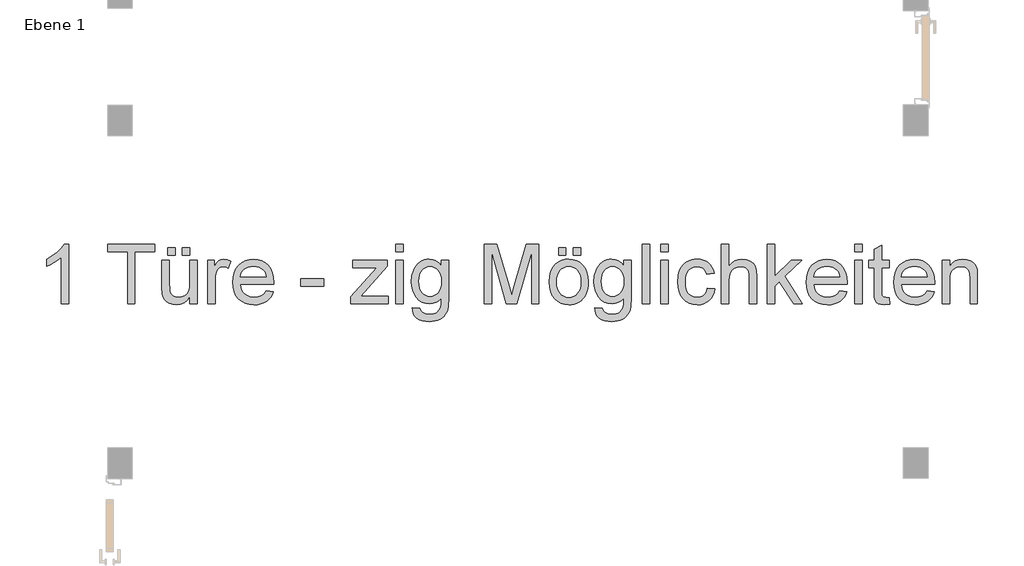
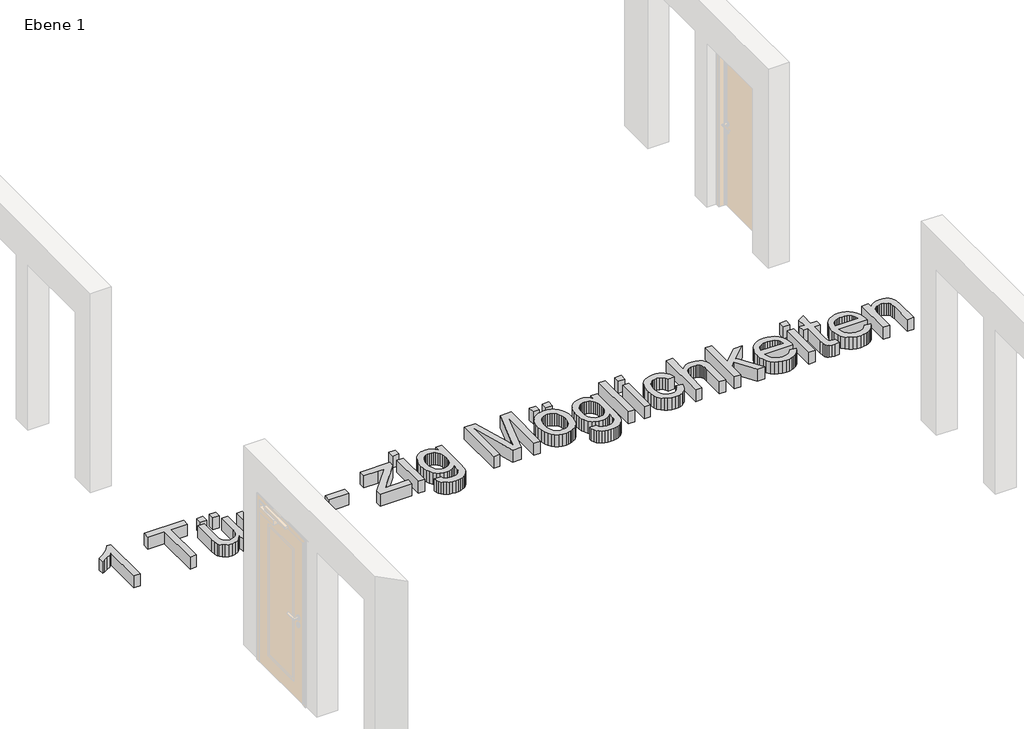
# One storey, part 2 of 2: 1 proxy.
"""IFC4 building model written with IfcOpenShell, lengths in millimetres."""

import ifcopenshell
import ifcopenshell.guid

model = None  # the IFC model being written
_history = None  # IfcOwnerHistory: only IFC2X3 demands one
_inside = {}  # id of a spatial element -> (the spatial element, [elements in it])
_under = {}  # id of a project, library or spatial element -> (it, [spatial elements below it])
_declared = {}  # id of a project -> (the project, [libraries it declares])
_typed = {}  # id of a type object -> (the type object, [elements of that type])
_made_of = {}  # id of a material, layer set ... -> (it, [elements and type objects made of it])


def new_model(schema):
    """Start an empty IFC model of exactly this schema.

    Asked for "IFC4X3", IfcOpenShell would pick the latest addendum, in which some entities
    have other attributes; the version numbers below select the first issue.
    IFC2X3 requires an IfcOwnerHistory on every rooted entity: one is made here for all.
    """
    global model, _history
    if schema == "IFC4X3":
        model = ifcopenshell.file(schema_version=(4, 3, 0, 0))
    else:
        model = ifcopenshell.file(schema=schema)
    _inside.clear()
    _under.clear()
    _declared.clear()
    _typed.clear()
    _made_of.clear()
    _history = None
    if model.schema == "IFC2X3":
        org = make("IfcOrganization", Name="unknown")
        user = make(
            "IfcPersonAndOrganization",
            ThePerson=make("IfcPerson", FamilyName="unknown"),
            TheOrganization=org,
        )
        app = make(
            "IfcApplication",
            ApplicationDeveloper=org,
            Version="unknown",
            ApplicationFullName="unknown",
            ApplicationIdentifier="unknown",
        )
        _history = make(
            "IfcOwnerHistory",
            OwningUser=user,
            OwningApplication=app,
            ChangeAction="ADDED",
            CreationDate=0,
        )
    return model


def make(cls, **values):
    """One entity of the class cls with the attributes given. An attribute that is None is left unset."""
    return model.create_entity(
        cls, **{name: value for name, value in values.items() if value is not None}
    )


def rooted(cls, **values):
    """An entity with a GlobalId (a new one), such as an element, a storey or a relation."""
    return make(cls, GlobalId=ifcopenshell.guid.new(), OwnerHistory=_history, **values)


def si_unit(unit_type, name, prefix=None):
    """IfcSIUnit, for example si_unit("LENGTHUNIT", "METRE", prefix="MILLI")."""
    return make("IfcSIUnit", UnitType=unit_type, Prefix=prefix, Name=name)


def assignment(units):
    """IfcUnitAssignment: the units of a project."""
    return None if units is None else make("IfcUnitAssignment", Units=units)


def point(xyz):
    """IfcCartesianPoint."""
    return None if xyz is None else make("IfcCartesianPoint", Coordinates=xyz)


def direction(xyz):
    """IfcDirection."""
    return None if xyz is None else make("IfcDirection", DirectionRatios=xyz)


def frame(location, z_axis=None, x_axis=None):
    """IfcAxis2Placement3D, a coordinate frame: its origin and axes. An axis left out is left unset."""
    return make(
        "IfcAxis2Placement3D",
        Location=point(location),
        Axis=direction(z_axis),
        RefDirection=direction(x_axis),
    )


def origin():
    """The frame at (0, 0, 0) with its axes left unset."""
    return frame((0.0, 0.0, 0.0))


def origin_with_axes():
    """The frame at (0, 0, 0) with the z axis (0, 0, 1) and the x axis (1, 0, 0) written out."""
    return frame((0.0, 0.0, 0.0), z_axis=(0.0, 0.0, 1.0), x_axis=(1.0, 0.0, 0.0))


def place(relative_to, where):
    """IfcLocalPlacement: puts the frame where relative to a parent placement (None: the world)."""
    return make(
        "IfcLocalPlacement", PlacementRelTo=relative_to, RelativePlacement=where
    )


def context(
    kind, dimensions, precision=None, world=None, true_north=None, identifier=None
):
    """IfcGeometricRepresentationContext, for example the 3D "Model" context."""
    return make(
        "IfcGeometricRepresentationContext",
        ContextIdentifier=identifier,
        ContextType=kind,
        CoordinateSpaceDimension=dimensions,
        Precision=precision,
        WorldCoordinateSystem=world,
        TrueNorth=true_north,
    )


def project(units=None, contexts=None):
    """IfcProject with its units and contexts."""
    return rooted(
        "IfcProject",
        Name="project",
        RepresentationContexts=contexts,
        UnitsInContext=assignment(units),
    )


def spatial(cls, under=None, at=None, **own):
    """A site, building, storey or space (cls), placed at a placement, below another one or the project."""
    s = rooted(cls, ObjectPlacement=at, **own)
    if under is not None:
        _under.setdefault(under.id(), (under, []))[1].append(s)
    return s


def polyline(points):
    """IfcPolyline through the points."""
    return make("IfcPolyline", Points=[point(p) for p in points])


def outline(outer, holes=None, kind="AREA"):
    """IfcArbitraryClosedProfileDef: a profile drawn as a closed curve; with holes, ...WithVoids."""
    if holes is None:
        return make("IfcArbitraryClosedProfileDef", ProfileType=kind, OuterCurve=outer)
    return make(
        "IfcArbitraryProfileDefWithVoids",
        ProfileType=kind,
        OuterCurve=outer,
        InnerCurves=holes,
    )


def extrude(swept, where, along, depth):
    """IfcExtrudedAreaSolid: the profile swept, set in the frame where, extruded along a direction by depth."""
    return make(
        "IfcExtrudedAreaSolid",
        SweptArea=swept,
        Position=where,
        ExtrudedDirection=direction(along),
        Depth=depth,
    )


def shape(context_of_items, identifier, shape_type, items):
    """IfcShapeRepresentation: the items that make up one representation, for example the "Body"."""
    return make(
        "IfcShapeRepresentation",
        ContextOfItems=context_of_items,
        RepresentationIdentifier=identifier,
        RepresentationType=shape_type,
        Items=items,
    )


def made_of(thing, what):
    """Note that an element or type object is made of a material, layer set ...; save() writes the relation."""
    if what is not None:
        _made_of.setdefault(what.id(), (what, []))[1].append(thing)
    return thing


def element(
    cls,
    number,
    at=None,
    inside=None,
    cuts=None,
    type_object=None,
    material=None,
    context=None,
    identifier="Body",
    shape_type=None,
    held_by="IfcProductDefinitionShape",
    body=None,
    shapes=None,
    **own,
):
    """One element of the class cls, such as IfcWall. Its Tag is "e" and its number.

    at: its placement. inside: the storey or other place that contains it. cuts: it is an
    opening in that element (IfcRelVoidsElement). A single representation is given by context,
    identifier, shape_type and body (its items); several are given by shapes. held_by: the class
    of the entity that holds the representations. save() writes the other relations.
    """
    e = rooted(cls, Tag="e%d" % number, ObjectPlacement=at, **own)
    if body is not None:
        shapes = [shape(context, identifier, shape_type, body)]
    if shapes is not None:
        e.Representation = make(held_by, Representations=shapes)
    if inside is not None:
        _inside.setdefault(inside.id(), (inside, []))[1].append(e)
    if cuts is not None:
        rooted(
            "IfcRelVoidsElement", RelatingBuildingElement=cuts, RelatedOpeningElement=e
        )
    if type_object is not None:
        _typed.setdefault(type_object.id(), (type_object, []))[1].append(e)
    return made_of(e, material)


def aggregate(whole, parts):
    """IfcRelAggregates: a whole, such as a stair, and the parts it consists of."""
    return rooted("IfcRelAggregates", RelatingObject=whole, RelatedObjects=parts)


def save(model, path):
    """Write the relations noted so far, then the file.

    IfcRelAggregates (storeys below a building ...), IfcRelContainedInSpatialStructure (elements
    in a storey), IfcRelDefinesByType, IfcRelAssociatesMaterial and IfcRelDeclares: one each for
    every whole, place, type object, material and project.
    """
    for whole, parts in _under.values():
        aggregate(whole, parts)
    for where, things in _inside.values():
        rooted(
            "IfcRelContainedInSpatialStructure",
            RelatedElements=things,
            RelatingStructure=where,
        )
    for kind, things in _typed.values():
        rooted("IfcRelDefinesByType", RelatedObjects=things, RelatingType=kind)
    for what, things in _made_of.values():
        rooted("IfcRelAssociatesMaterial", RelatedObjects=things, RelatingMaterial=what)
    for by, libraries in _declared.values():
        rooted("IfcRelDeclares", RelatingContext=by, RelatedDefinitions=libraries)
    model.write(path)


model = new_model("IFC4")

# Units and contexts
model_context = context("Model", 3, world=origin())
ifc_project = project(units=[si_unit("LENGTHUNIT", "METRE", prefix="MILLI")], contexts=[model_context])

# Site, building, storey
site = spatial("IfcSite", under=ifc_project)
building = spatial("IfcBuilding", under=site)
storey = spatial("IfcBuildingStorey", under=building, Name="Ebene 1", Elevation=0.0)

# Proxy
placement = place(None, origin())
element("IfcBuildingElementProxy", 1, Name="Modelltext 1", ObjectType="Modelltext 1", at=placement, inside=storey, context=model_context, shape_type="SweptSolid", body=[
    extrude(outline(polyline([(-4901.5799407, -2031.7303365), (-4976.9221733, -2031.7303365), (-4976.9221733, -1562.0186051), (-5008.3760839, -1587.4576451), (-5048.2912804, -1612.8598968), (-5090.1930397, -1635.0615752), (-5127.6066386, -1650.8988951), (-5127.6066386, -1579.6769409), (-5068.4328196, -1547.4872663), (-5017.1684636, -1509.1907506), (-4976.7566264, -1468.4662137), (-4950.1403641, -1428.9924756), (-4901.5799407, -1428.9924756), (-4901.5799407, -2031.7303365)])), origin_with_axes(), (0.0, 0.0, 1.0), 150.0),
    extrude(outline(polyline([(-4308.2598589, -2031.7303365), (-4308.2598589, -1504.3347083), (-4506.0332195, -1504.3347083), (-4506.0332195, -1428.9924756), (-4035.1442657, -1428.9924756), (-4035.1442657, -1504.3347083), (-4232.9176263, -1504.3347083), (-4232.9176263, -2031.7303365), (-4308.2598589, -2031.7303365)])), origin_with_axes(), (0.0, 0.0, 1.0), 150.0),
    extrude(outline(polyline([(-3677.2686608, -2031.7303365), (-3677.2686608, -1955.6523399), (-3704.5287166, -1993.0567418), (-3736.2769328, -2019.7741717), (-3772.5133093, -2035.8046296), (-3813.2378462, -2041.1481156), (-3849.9340752, -2037.3957193), (-3884.0919185, -2026.1385302), (-3912.7499259, -2009.2159584), (-3932.9466474, -1988.4674139), (-3946.5398871, -1963.2674972), (-3955.3874491, -1932.990809), (-3959.8020331, -1862.9460772), (-3959.8020331, -1589.0947199), (-3884.4598005, -1589.0947199), (-3884.4598005, -1827.4822528), (-3883.3193663, -1875.1597594), (-3879.8980637, -1904.2960134), (-3868.9167862, -1929.9189944), (-3850.0996221, -1949.398346), (-3824.6973703, -1961.7039988), (-3793.9608296, -1965.805883), (-3761.4584554, -1961.6120283), (-3731.0530085, -1949.030464), (-3705.9818505, -1929.2200186), (-3689.482343, -1903.3395202), (-3680.3220813, -1867.89409), (-3677.2686608, -1819.3888489), (-3677.2686608, -1589.0947199), (-3601.9264282, -1589.0947199), (-3601.9264282, -2031.7303365), (-3677.2686608, -2031.7303365)])), origin_with_axes(), (0.0, 0.0, 1.0), 150.0),
    extrude(outline(polyline([(-3903.2953586, -1542.0058246), (-3903.2953586, -1466.663592), (-3827.953126, -1466.663592), (-3827.953126, -1542.0058246), (-3903.2953586, -1542.0058246)])), origin_with_axes(), (0.0, 0.0, 1.0), 150.0),
    extrude(outline(polyline([(-3752.6108934, -1542.0058246), (-3752.6108934, -1466.663592), (-3677.2686608, -1466.663592), (-3677.2686608, -1542.0058246), (-3752.6108934, -1542.0058246)])), origin_with_axes(), (0.0, 0.0, 1.0), 150.0),
    extrude(outline(polyline([(-3498.3308583, -2031.7303365), (-3498.3308583, -1589.0947199), (-3432.4064048, -1589.0947199), (-3432.4064048, -1654.5777151), (-3408.0526167, -1616.6122932), (-3385.611815, -1594.2450679), (-3363.0974369, -1583.3189726), (-3338.5229196, -1579.6769409), (-3300.9989561, -1585.4894764), (-3262.8863814, -1602.927083), (-3288.0495099, -1670.4702173), (-3314.5370135, -1658.8819344), (-3341.0245172, -1655.0191735), (-3363.5205012, -1658.7347816), (-3383.6252522, -1669.8816061), (-3399.8672423, -1687.6135183), (-3410.7749435, -1711.0843895), (-3419.9352052, -1753.1700898), (-3422.9886257, -1799.0817628), (-3422.9886257, -2031.7303365), (-3498.3308583, -2031.7303365)])), origin_with_axes(), (0.0, 0.0, 1.0), 150.0),
    extrude(outline(polyline([(-2905.8936933, -1899.8814295), (-2832.0229887, -1909.2992086), (-2843.3491556, -1938.886118), (-2858.639251, -1964.9597544), (-2877.8932749, -1987.5201178), (-2901.1112274, -2006.5672081), (-2928.053985, -2021.6963551), (-2958.4824245, -2032.5028887), (-2992.3965459, -2038.9868089), (-3029.7963493, -2041.1481156), (-3076.5449538, -2037.4187119), (-3118.1983927, -2026.2305007), (-3154.756666, -2007.5834821), (-3186.2197736, -1981.477656), (-3211.5208578, -1948.6395894), (-3229.5930608, -1909.7958492), (-3240.4363827, -1864.9464355), (-3244.0508233, -1814.0913482), (-3240.3995945, -1761.511814), (-3229.445908, -1715.1678797), (-3211.189764, -1675.0595452), (-3185.6311624, -1641.1868105), (-3154.2508282, -1614.2762425), (-3118.5294865, -1595.0544083), (-3078.4671372, -1583.5213077), (-3034.0637804, -1579.6769409), (-2991.0905648, -1583.5121107), (-2952.2284306, -1595.0176201), (-2917.4773776, -1614.1934691), (-2886.8374059, -1641.0396577), (-2861.8260288, -1674.838816), (-2843.9607594, -1714.8735741), (-2833.2415978, -1761.143932), (-2829.6685439, -1813.6498898), (-2830.1100023, -1833.9569759), (-3168.7085906, -1833.9569759), (-3164.3445905, -1864.022132), (-3155.6671739, -1890.3532858), (-3142.676341, -1912.9504374), (-3125.3720916, -1931.8135867), (-3104.7109191, -1946.6852163), (-3081.6493165, -1957.3078089), (-3056.1872839, -1963.6813645), (-3028.3248213, -1965.805883), (-2988.2256838, -1961.8695457), (-2954.4541167, -1950.0605336), (-2927.0101198, -1929.6430829), (-2905.8936933, -1899.8814295)]), holes=[polyline([(-3168.7085906, -1758.6147433), (-2905.0107765, -1758.6147433), (-2915.2011078, -1718.8099114), (-2923.9658963, -1703.1565326), (-2935.1771001, -1690.335845), (-2955.7233095, -1674.8848012), (-2979.1022103, -1663.8483414), (-3005.3138025, -1657.2264655), (-3034.358086, -1655.0191735), (-3060.8501882, -1656.7804085), (-3085.1441954, -1662.0641137), (-3107.2401078, -1670.870289), (-3127.1379252, -1683.1989343), (-3143.8351692, -1698.4798327), (-3156.3293615, -1716.142767), (-3164.620502, -1736.1877372), (-3168.7085906, -1758.6147433)])]), origin_with_axes(), (0.0, 0.0, 1.0), 150.0),
    extrude(outline(polyline([(-2556.5529507, -1852.7925341), (-2556.5529507, -1777.4503015), (-2321.1084738, -1777.4503015), (-2321.1084738, -1852.7925341), (-2556.5529507, -1852.7925341)])), origin_with_axes(), (0.0, 0.0, 1.0), 150.0),
    extrude(outline(polyline([(-2047.9928805, -2031.7303365), (-2047.9928805, -1960.8026879), (-1787.9738863, -1664.4369526), (-1864.9347997, -1664.4369526), (-2029.1573224, -1664.4369526), (-2029.1573224, -1589.0947199), (-1680.6994966, -1589.0947199), (-1680.6994966, -1653.1061871), (-1911.2879311, -1916.0682373), (-1946.6046027, -1956.3881039), (-1859.4901462, -1956.3881039), (-1671.2817175, -1956.3881039), (-1671.2817175, -2031.7303365), (-2047.9928805, -2031.7303365)])), origin_with_axes(), (0.0, 0.0, 1.0), 150.0),
    extrude(outline(polyline([(-1595.9394849, -1504.3347083), (-1595.9394849, -1428.9924756), (-1520.5972523, -1428.9924756), (-1520.5972523, -1504.3347083), (-1595.9394849, -1504.3347083)])), origin_with_axes(), (0.0, 0.0, 1.0), 150.0),
    extrude(outline(polyline([(-1595.9394849, -2031.7303365), (-1595.9394849, -1589.0947199), (-1520.5972523, -1589.0947199), (-1520.5972523, -2031.7303365), (-1595.9394849, -2031.7303365)])), origin_with_axes(), (0.0, 0.0, 1.0), 150.0),
    extrude(outline(polyline([(-1426.4194615, -2069.4014529), (-1351.0772289, -2078.8192319), (-1342.7630958, -2102.3636796), (-1326.6498644, -2118.5504874), (-1294.9752246, -2131.1320516), (-1253.5149238, -2135.3259064), (-1209.2955079, -2130.5802286), (-1191.4348371, -2124.6481315), (-1176.4068576, -2116.3431954), (-1153.5981739, -2093.5345117), (-1139.618658, -2063.0738825), (-1135.5351679, -2030.6634788), (-1134.4683101, -1975.2236621), (-1159.5394681, -1999.9453322), (-1187.5168938, -2017.6036679), (-1218.4005873, -2028.1986694), (-1252.1905486, -2031.7303365), (-1293.4990981, -2027.6192552), (-1329.8688319, -2015.2860114), (-1361.2997498, -1994.7306049), (-1387.791852, -1965.9530358), (-1408.8117095, -1931.4273106), (-1423.8258934, -1893.6274356), (-1432.8344038, -1852.5534108), (-1435.8372406, -1808.2052363), (-1430.4477693, -1747.3759484), (-1414.2793556, -1691.439491), (-1402.2955997, -1666.2165817), (-1387.9022166, -1644.0378959), (-1371.0992065, -1624.9034337), (-1351.8865693, -1608.8131949), (-1330.5724062, -1596.0660838), (-1307.4648183, -1586.9610044), (-1282.5638058, -1581.4979567), (-1255.8693685, -1579.6769409), (-1220.6354704, -1583.7972192), (-1188.657328, -1596.1580543), (-1159.9349412, -1616.759446), (-1134.4683101, -1645.6013944), (-1134.4683101, -1589.0947199), (-1059.1260775, -1589.0947199), (-1059.1260775, -1971.2505365), (-1064.2764254, -2059.4870331), (-1070.7143604, -2092.3067056), (-1079.7274692, -2117.5939942), (-1091.5318828, -2137.9884523), (-1106.3437316, -2156.1296332), (-1124.1630157, -2172.0175369), (-1144.9897352, -2185.6521633), (-1168.6123578, -2196.5966527), (-1194.8193514, -2204.4141451), (-1223.6107161, -2209.1046405), (-1254.9864517, -2210.668139), (-1291.8988114, -2208.4654456), (-1325.0863659, -2201.8573652), (-1354.5491152, -2190.843898), (-1380.2870593, -2175.4250439), (-1401.0769905, -2155.5824087), (-1415.6957013, -2131.2975985), (-1424.1431916, -2102.5706132), (-1426.4194615, -2069.4014529)]), holes=[polyline([(-1360.495008, -1803.0548883), (-1358.4854526, -1840.3075389), (-1352.4567864, -1872.1615211), (-1342.4090094, -1898.6168351), (-1328.3421216, -1919.6734808), (-1311.2402073, -1935.7361284), (-1292.0873509, -1947.2094482), (-1270.8835525, -1954.09344), (-1247.6288118, -1956.3881039), (-1224.6039975, -1954.1072356), (-1203.5013665, -1947.2646305), (-1184.320919, -1935.8602886), (-1167.0626549, -1919.89421), (-1152.8026291, -1899.0444979), (-1142.6168963, -1872.9892556), (-1136.5054567, -1841.7284831), (-1134.4683101, -1805.2621803), (-1136.5652375, -1770.3179893), (-1142.8560196, -1739.9447321), (-1153.3406565, -1714.1424086), (-1168.0191481, -1692.911019), (-1185.6498927, -1676.3333366), (-1204.9912886, -1664.4921349), (-1226.0433358, -1657.3874138), (-1248.8060342, -1655.0191735), (-1271.1870551, -1657.3506256), (-1291.8298336, -1664.3449821), (-1310.7343696, -1676.0022428), (-1327.9006632, -1692.3224078), (-1342.160689, -1713.2319007), (-1352.3464218, -1738.6571451), (-1358.4578614, -1768.598141), (-1360.495008, -1803.0548883)])]), origin_with_axes(), (0.0, 0.0, 1.0), 150.0),
    extrude(outline(polyline([(-701.2504726, -2031.7303365), (-701.2504726, -1428.9924756), (-571.6088575, -1428.9924756), (-448.2948127, -1853.8226037), (-423.4259898, -1942.5557409), (-396.4970278, -1846.4649638), (-275.2431222, -1428.9924756), (-145.6015071, -1428.9924756), (-145.6015071, -2031.7303365), (-220.9437397, -2031.7303365), (-220.9437397, -1504.3347083), (-372.3639689, -2031.7303365), (-474.4880108, -2031.7303365), (-625.90824, -1504.3347083), (-625.90824, -2031.7303365), (-701.2504726, -2031.7303365)])), origin_with_axes(), (0.0, 0.0, 1.0), 150.0),
    extrude(outline(polyline([(-42.0059372, -1810.4125282), (-37.9316441, -1753.0873163), (-25.7087649, -1703.6899614), (-5.3372994, -1662.2204635), (23.1827523, -1628.6788226), (51.895942, -1607.2404994), (83.5889759, -1591.9274113), (118.261854, -1582.7395585), (155.9145762, -1579.6769409), (197.4806431, -1583.4063446), (235.0643874, -1594.5945558), (268.6658092, -1613.2415744), (298.2849083, -1639.3474005), (322.4593539, -1672.0291172), (339.7268151, -1710.4038079), (350.0872917, -1754.4714724), (353.540784, -1804.2321107), (352.0140737, -1844.5611744), (347.4339429, -1880.3468955), (339.8003915, -1911.589274), (329.1134195, -1938.2883098), (315.5063842, -1961.3499123), (299.1126428, -1981.6799911), (279.9321953, -1999.278546), (257.9650416, -2014.1455772), (234.0665075, -2025.9591877), (209.0919186, -2034.397481), (183.0412748, -2039.460457), (155.9145762, -2041.1481156), (113.7415039, -2037.4325075), (75.8082717, -2026.285683), (42.1148795, -2007.7076423), (12.6613272, -1981.6983852), (-11.255601, -1948.6993702), (-28.3391211, -1909.1520558), (-38.5892332, -1863.0564418), (-42.0059372, -1810.4125282)]), holes=[polyline([(33.3362954, -1810.2653754), (35.5159962, -1846.8098531), (42.0550987, -1878.4523033), (52.9536028, -1905.1927258), (68.2115085, -1927.0311207), (86.7711552, -1943.9950792), (107.574882, -1956.1121924), (130.622689, -1963.3824604), (155.9145762, -1965.805883), (181.0777046, -1963.3686648), (204.0335411, -1956.0570101), (224.7820857, -1943.870919), (243.3233382, -1926.8103915), (258.581244, -1904.7558659), (269.4797481, -1877.5877806), (276.0188505, -1845.3061355), (278.1985514, -1807.9109307), (276.005055, -1772.5252813), (269.4245658, -1741.7105656), (258.4570838, -1715.4667838), (243.102609, -1693.7939358), (224.4923786, -1676.8299773), (203.7576296, -1664.7128641), (180.8983622, -1657.4425961), (155.9145762, -1655.0191735), (130.622689, -1657.4333991), (107.574882, -1664.6760759), (86.7711552, -1676.7472038), (68.2115085, -1693.646783), (52.9536028, -1715.4207986), (42.0550987, -1742.1152358), (35.5159962, -1773.7300948), (33.3362954, -1810.2653754)])]), origin_with_axes(), (0.0, 0.0, 1.0), 150.0),
    extrude(outline(polyline([(52.1718535, -1542.0058246), (52.1718535, -1466.663592), (127.5140861, -1466.663592), (127.5140861, -1542.0058246), (52.1718535, -1542.0058246)])), origin_with_axes(), (0.0, 0.0, 1.0), 150.0),
    extrude(outline(polyline([(202.8563188, -1542.0058246), (202.8563188, -1466.663592), (278.1985514, -1466.663592), (278.1985514, -1542.0058246), (202.8563188, -1542.0058246)])), origin_with_axes(), (0.0, 0.0, 1.0), 150.0),
    extrude(outline(polyline([(419.4652375, -2069.4014529), (494.8074701, -2078.8192319), (503.1216032, -2102.3636796), (519.2348346, -2118.5504874), (550.9094744, -2131.1320516), (592.3697752, -2135.3259064), (636.5891911, -2130.5802286), (654.4498619, -2124.6481315), (669.4778414, -2116.3431954), (692.2865251, -2093.5345117), (706.266041, -2063.0738825), (710.3495311, -2030.6634788), (711.4163889, -1975.2236621), (686.3452309, -1999.9453322), (658.3678052, -2017.6036679), (627.4841117, -2028.1986694), (593.6941504, -2031.7303365), (552.3856009, -2027.6192552), (516.0158671, -2015.2860114), (484.5849492, -1994.7306049), (458.092847, -1965.9530358), (437.0729895, -1931.4273106), (422.0588056, -1893.6274356), (413.0502952, -1852.5534108), (410.0474584, -1808.2052363), (415.4369297, -1747.3759484), (431.6053434, -1691.439491), (443.5890993, -1666.2165817), (457.9824824, -1644.0378959), (474.7854925, -1624.9034337), (493.9981297, -1608.8131949), (515.3122928, -1596.0660838), (538.4198807, -1586.9610044), (563.3208932, -1581.4979567), (590.0153305, -1579.6769409), (625.2492286, -1583.7972192), (657.227371, -1596.1580543), (685.9497578, -1616.759446), (711.4163889, -1645.6013944), (711.4163889, -1589.0947199), (786.7586215, -1589.0947199), (786.7586215, -1971.2505365), (781.6082736, -2059.4870331), (775.1703386, -2092.3067056), (766.1572298, -2117.5939942), (754.3528162, -2137.9884523), (739.5409674, -2156.1296332), (721.7216833, -2172.0175369), (700.8949638, -2185.6521633), (677.2723412, -2196.5966527), (651.0653476, -2204.4141451), (622.2739829, -2209.1046405), (590.8982473, -2210.668139), (553.9858876, -2208.4654456), (520.7983331, -2201.8573652), (491.3355838, -2190.843898), (465.5976397, -2175.4250439), (444.8077085, -2155.5824087), (430.1889977, -2131.2975985), (421.7415074, -2102.5706132), (419.4652375, -2069.4014529)]), holes=[polyline([(485.389691, -1803.0548883), (487.3992464, -1840.3075389), (493.4279126, -1872.1615211), (503.4756896, -1898.6168351), (517.5425774, -1919.6734808), (534.6444917, -1935.7361284), (553.797348, -1947.2094482), (575.0011465, -1954.09344), (598.2558872, -1956.3881039), (621.2807015, -1954.1072356), (642.3833325, -1947.2646305), (661.56378, -1935.8602886), (678.8220441, -1919.89421), (693.0820699, -1899.0444979), (703.2678027, -1872.9892556), (709.3792423, -1841.7284831), (711.4163889, -1805.2621803), (709.3194615, -1770.3179893), (703.0286794, -1739.9447321), (692.5440425, -1714.1424086), (677.8655509, -1692.911019), (660.2348063, -1676.3333366), (640.8934104, -1664.4921349), (619.8413632, -1657.3874138), (597.0786648, -1655.0191735), (574.6976439, -1657.3506256), (554.0548654, -1664.3449821), (535.1503294, -1676.0022428), (517.9840358, -1692.3224078), (503.72401, -1713.2319007), (493.5382772, -1738.6571451), (487.4268376, -1768.598141), (485.389691, -1803.0548883)])]), origin_with_axes(), (0.0, 0.0, 1.0), 150.0),
    extrude(outline(polyline([(899.7719704, -2031.7303365), (899.7719704, -1428.9924756), (975.114203, -1428.9924756), (975.114203, -2031.7303365), (899.7719704, -2031.7303365)])), origin_with_axes(), (0.0, 0.0, 1.0), 150.0),
    extrude(outline(polyline([(1088.1275519, -1504.3347083), (1088.1275519, -1428.9924756), (1163.4697846, -1428.9924756), (1163.4697846, -1504.3347083), (1088.1275519, -1504.3347083)])), origin_with_axes(), (0.0, 0.0, 1.0), 150.0),
    extrude(outline(polyline([(1088.1275519, -2031.7303365), (1088.1275519, -1589.0947199), (1163.4697846, -1589.0947199), (1163.4697846, -2031.7303365), (1088.1275519, -2031.7303365)])), origin_with_axes(), (0.0, 0.0, 1.0), 150.0),
    extrude(outline(polyline([(1559.0165058, -1871.6280922), (1634.3587384, -1881.0458713), (1626.1641669, -1916.5970676), (1613.3526765, -1948.0555767), (1595.9242669, -1975.4213987), (1573.8789384, -1998.6945334), (1548.1455928, -2017.2679756), (1519.6531323, -2030.5347201), (1488.4015568, -2038.4947667), (1454.3908663, -2041.1481156), (1412.1350207, -2037.446303), (1374.2477737, -2026.3408653), (1340.7291254, -2007.8318024), (1311.5790758, -1981.9191144), (1287.9840443, -1949.0902449), (1271.1304504, -1909.8326374), (1261.0182941, -1864.1462922), (1257.6475753, -1812.031209), (1263.4049285, -1744.9847154), (1270.6016201, -1714.8137933), (1280.6769882, -1686.8777543), (1293.7000108, -1661.7376184), (1309.7396658, -1639.9544058), (1328.7959532, -1621.5281163), (1350.8688729, -1606.4587501), (1374.9605451, -1594.7417086), (1400.0730898, -1586.3723932), (1426.206507, -1581.350804), (1453.3607968, -1579.6769409), (1486.7874745, -1581.9762033), (1517.022776, -1588.8739908), (1544.0667012, -1600.3703031), (1567.9192501, -1616.4651404), (1588.1757524, -1636.7906206), (1604.4315381, -1660.9788618), (1616.686607, -1689.0298639), (1624.9409593, -1720.943627), (1549.5987267, -1730.3614061), (1535.9319106, -1697.4911498), (1514.6499372, -1673.928308), (1486.9300288, -1659.7464571), (1453.9494079, -1655.0191735), (1428.3494196, -1657.3460271), (1405.2602259, -1664.326588), (1384.6818268, -1675.9608561), (1366.6142223, -1692.2488314), (1351.903541, -1713.567593), (1341.3959115, -1740.29422), (1335.0913338, -1772.4287122), (1332.9898079, -1809.9710699), (1335.0453486, -1848.079046), (1341.2119705, -1880.5860188), (1351.4896738, -1907.4919882), (1365.8784583, -1928.7969543), (1383.5873778, -1944.9883606), (1403.8254861, -1956.5536508), (1426.5927831, -1963.492825), (1451.8892688, -1965.805883), (1490.9031544, -1960.0301357), (1507.7751424, -1952.8104515), (1522.8904938, -1942.7028937), (1535.8261445, -1929.5970976), (1546.15903, -1913.3826987), (1553.8891505, -1894.0596969), (1559.0165058, -1871.6280922)])), origin_with_axes(), (0.0, 0.0, 1.0), 150.0),
    extrude(outline(polyline([(1700.2831919, -2031.7303365), (1700.2831919, -1428.9924756), (1775.6254245, -1428.9924756), (1775.6254245, -1650.6045895), (1803.2993476, -1619.5737432), (1834.3761792, -1597.408853), (1868.8559192, -1584.1099189), (1906.7385676, -1579.6769409), (1952.2455704, -1584.5145891), (1991.3514265, -1599.0275338), (2022.1431495, -1622.0753408), (2042.707753, -1652.5175759), (2054.2960359, -1694.3457588), (2058.1587968, -1751.551409), (2058.1587968, -2031.7303365), (1982.8165642, -2031.7303365), (1982.8165642, -1759.3505073), (1981.3174451, -1733.9114674), (1976.8200877, -1712.1880355), (1969.324492, -1694.1802119), (1958.8306581, -1679.8879964), (1945.5869063, -1669.0078864), (1929.8415569, -1661.2363792), (1911.5946099, -1656.5734749), (1890.8460654, -1655.0191735), (1859.0058787, -1659.2130282), (1829.1154666, -1671.7945925), (1804.3570084, -1691.5498556), (1787.9126832, -1717.2648071), (1778.6972392, -1751.4410444), (1775.6254245, -1796.5801652), (1775.6254245, -2031.7303365), (1700.2831919, -2031.7303365)])), origin_with_axes(), (0.0, 0.0, 1.0), 150.0),
    extrude(outline(polyline([(2161.7543667, -2031.7303365), (2161.7543667, -1428.9924756), (2237.0965993, -1428.9924756), (2237.0965993, -1752.8757842), (2406.0280115, -1589.0947199), (2510.2121925, -1589.0947199), (2339.2206411, -1754.9359234), (2519.6299716, -2031.7303365), (2431.6325983, -2031.7303365), (2285.2155642, -1807.3223195), (2237.0965993, -1853.9697565), (2237.0965993, -2031.7303365), (2161.7543667, -2031.7303365)])), origin_with_axes(), (0.0, 0.0, 1.0), 150.0),
    extrude(outline(polyline([(2895.4582178, -1899.8814295), (2969.3289225, -1909.2992086), (2958.0027556, -1938.886118), (2942.7126601, -1964.9597544), (2923.4586362, -1987.5201178), (2900.2406838, -2006.5672081), (2873.2979262, -2021.6963551), (2842.8694866, -2032.5028887), (2808.9553652, -2038.9868089), (2771.5555619, -2041.1481156), (2724.8069573, -2037.4187119), (2683.1535184, -2026.2305007), (2646.5952452, -2007.5834821), (2615.1321375, -1981.477656), (2589.8310533, -1948.6395894), (2571.7588503, -1909.7958492), (2560.9155285, -1864.9464355), (2557.3010879, -1814.0913482), (2560.9523167, -1761.511814), (2571.9060031, -1715.1678797), (2590.1621471, -1675.0595452), (2615.7207487, -1641.1868105), (2647.1010829, -1614.2762425), (2682.8224246, -1595.0544083), (2722.8847739, -1583.5213077), (2767.2881307, -1579.6769409), (2810.2613463, -1583.5121107), (2849.1234806, -1595.0176201), (2883.8745335, -1614.1934691), (2914.5145052, -1641.0396577), (2939.5258823, -1674.838816), (2957.3911517, -1714.8735741), (2968.1103134, -1761.143932), (2971.6833672, -1813.6498898), (2971.2419089, -1833.9569759), (2632.6433205, -1833.9569759), (2637.0073207, -1864.022132), (2645.6847372, -1890.3532858), (2658.6755702, -1912.9504374), (2675.9798195, -1931.8135867), (2696.6409921, -1946.6852163), (2719.7025947, -1957.3078089), (2745.1646272, -1963.6813645), (2773.0270899, -1965.805883), (2813.1262273, -1961.8695457), (2846.8977945, -1950.0605336), (2874.3417913, -1929.6430829), (2895.4582178, -1899.8814295)]), holes=[polyline([(2632.6433205, -1758.6147433), (2896.3411346, -1758.6147433), (2886.1508034, -1718.8099114), (2877.3860148, -1703.1565326), (2866.174811, -1690.335845), (2845.6286016, -1674.8848012), (2822.2497008, -1663.8483414), (2796.0381087, -1657.2264655), (2766.9938251, -1655.0191735), (2740.501723, -1656.7804085), (2716.2077157, -1662.0641137), (2694.1118034, -1670.870289), (2674.2139859, -1683.1989343), (2657.5167419, -1698.4798327), (2645.0225496, -1716.142767), (2636.7314092, -1736.1877372), (2632.6433205, -1758.6147433)])]), origin_with_axes(), (0.0, 0.0, 1.0), 150.0),
    extrude(outline(polyline([(3047.0255999, -1504.3347083), (3047.0255999, -1428.9924756), (3122.3678325, -1428.9924756), (3122.3678325, -1504.3347083), (3047.0255999, -1504.3347083)])), origin_with_axes(), (0.0, 0.0, 1.0), 150.0),
    extrude(outline(polyline([(3047.0255999, -2031.7303365), (3047.0255999, -1589.0947199), (3122.3678325, -1589.0947199), (3122.3678325, -2031.7303365), (3047.0255999, -2031.7303365)])), origin_with_axes(), (0.0, 0.0, 1.0), 150.0),
    extrude(outline(polyline([(3395.4834257, -1968.8960918), (3404.9012048, -2033.9376285), (3348.5416831, -2041.1481156), (3312.378883, -2038.0211187), (3285.4131327, -2028.6401278), (3266.3568454, -2014.1823654), (3253.9224339, -1995.8250538), (3247.0798288, -1964.2975668), (3244.7989605, -1910.3292781), (3244.7989605, -1664.4369526), (3188.292286, -1664.4369526), (3188.292286, -1589.0947199), (3244.7989605, -1589.0947199), (3244.7989605, -1481.5260246), (3320.1411931, -1437.2330323), (3320.1411931, -1589.0947199), (3395.4834257, -1589.0947199), (3395.4834257, -1664.4369526), (3320.1411931, -1664.4369526), (3320.1411931, -1908.1219862), (3324.1143186, -1946.9703249), (3336.9901885, -1960.7291115), (3347.8611014, -1964.5366901), (3362.6683517, -1965.805883), (3395.4834257, -1968.8960918)])), origin_with_axes(), (0.0, 0.0, 1.0), 150.0),
    extrude(outline(polyline([(3780.729451, -1899.8814295), (3854.6001557, -1909.2992086), (3843.2739887, -1938.886118), (3827.9838933, -1964.9597544), (3808.7298694, -1987.5201178), (3785.511917, -2006.5672081), (3758.5691594, -2021.6963551), (3728.1407198, -2032.5028887), (3694.2265984, -2038.9868089), (3656.8267951, -2041.1481156), (3610.0781905, -2037.4187119), (3568.4247516, -2026.2305007), (3531.8664784, -2007.5834821), (3500.4033707, -1981.477656), (3475.1022865, -1948.6395894), (3457.0300835, -1909.7958492), (3446.1867617, -1864.9464355), (3442.5723211, -1814.0913482), (3446.2235499, -1761.511814), (3457.1772363, -1715.1678797), (3475.4333803, -1675.0595452), (3500.9919819, -1641.1868105), (3532.3723161, -1614.2762425), (3568.0936578, -1595.0544083), (3608.1560071, -1583.5213077), (3652.5593639, -1579.6769409), (3695.5325795, -1583.5121107), (3734.3947137, -1595.0176201), (3769.1457667, -1614.1934691), (3799.7857384, -1641.0396577), (3824.7971155, -1674.838816), (3842.6623849, -1714.8735741), (3853.3815466, -1761.143932), (3856.9546004, -1813.6498898), (3856.513142, -1833.9569759), (3517.9145537, -1833.9569759), (3522.2785539, -1864.022132), (3530.9559704, -1890.3532858), (3543.9468034, -1912.9504374), (3561.2510527, -1931.8135867), (3581.9122253, -1946.6852163), (3604.9738278, -1957.3078089), (3630.4358604, -1963.6813645), (3658.298323, -1965.805883), (3698.3974605, -1961.8695457), (3732.1690277, -1950.0605336), (3759.6130245, -1929.6430829), (3780.729451, -1899.8814295)]), holes=[polyline([(3517.9145537, -1758.6147433), (3781.6123678, -1758.6147433), (3771.4220366, -1718.8099114), (3762.657248, -1703.1565326), (3751.4460442, -1690.335845), (3730.8998348, -1674.8848012), (3707.520934, -1663.8483414), (3681.3093418, -1657.2264655), (3652.2650583, -1655.0191735), (3625.7729561, -1656.7804085), (3601.4789489, -1662.0641137), (3579.3830366, -1670.870289), (3559.4852191, -1683.1989343), (3542.7879751, -1698.4798327), (3530.2937828, -1716.142767), (3522.0026424, -1736.1877372), (3517.9145537, -1758.6147433)])]), origin_with_axes(), (0.0, 0.0, 1.0), 150.0),
    extrude(outline(polyline([(3932.2968331, -2031.7303365), (3932.2968331, -1589.0947199), (4007.6390657, -1589.0947199), (4007.6390657, -1650.8988951), (4033.8138696, -1619.7392901), (4065.2493861, -1597.4824294), (4101.9456151, -1584.128313), (4143.9025567, -1579.6769409), (4181.0402441, -1583.2637903), (4215.0509345, -1594.0243387), (4243.4146364, -1610.6158167), (4263.6113579, -1631.695455), (4277.3149622, -1657.2080714), (4286.1993124, -1687.0984835), (4290.172438, -1759.9391185), (4290.172438, -2031.7303365), (4214.8302054, -2031.7303365), (4214.8302054, -1770.0926616), (4212.6597016, -1731.1339583), (4206.1481903, -1703.4324441), (4194.1368431, -1683.5852104), (4175.4668319, -1668.1893489), (4151.5361081, -1658.3117173), (4123.7426233, -1655.0191735), (4100.8649618, -1656.8677805), (4079.615178, -1662.4136016), (4059.9932721, -1671.6566367), (4041.999244, -1684.5968859), (4026.966666, -1702.7058771), (4016.2291103, -1727.4551383), (4009.7865768, -1758.8446696), (4007.6390657, -1796.8744708), (4007.6390657, -2031.7303365), (3932.2968331, -2031.7303365)])), origin_with_axes(), (0.0, 0.0, 1.0), 150.0),
])

save(model, "model.ifc")
